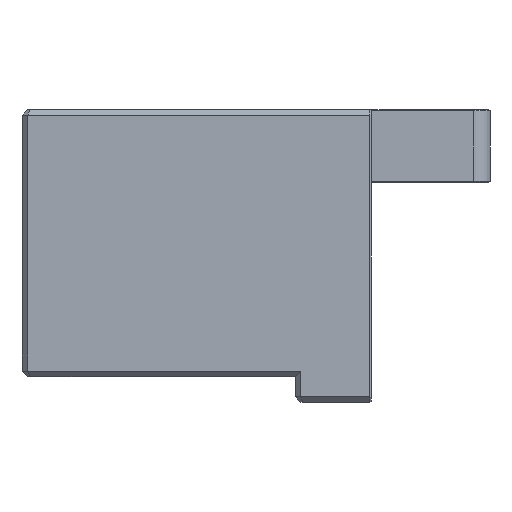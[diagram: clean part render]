
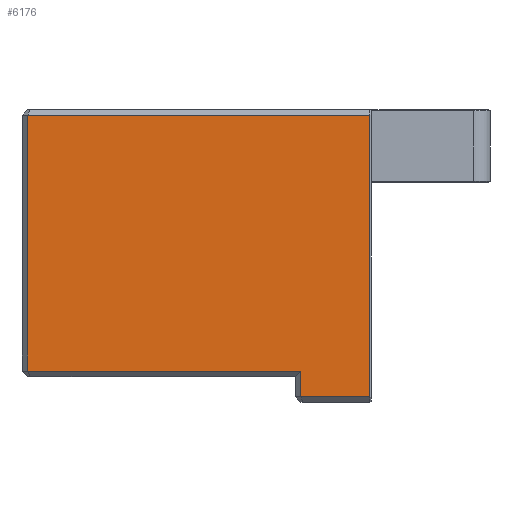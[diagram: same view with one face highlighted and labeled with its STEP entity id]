
A CAD part, left-side view. The second image highlights one B-rep face of the part: STEP entity #6176.
In plain terms, the highlighted planar face has unit normal (-1, 0, 0).
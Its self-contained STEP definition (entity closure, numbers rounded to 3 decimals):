
#166 = DIRECTION ( 'NONE',  ( 0., 0., 1. ) ) ;
#170 = CARTESIAN_POINT ( 'NONE',  ( -79.5, -18.6, -51.2 ) ) ;
#203 = PLANE ( 'NONE',  #5440 ) ;
#427 = VERTEX_POINT ( 'NONE', #4143 ) ;
#581 = VERTEX_POINT ( 'NONE', #7406 ) ;
#1138 = CARTESIAN_POINT ( 'NONE',  ( -79.5, 31.1, -1. ) ) ;
#1253 = VERTEX_POINT ( 'NONE', #4697 ) ;
#1882 = ORIENTED_EDGE ( 'NONE', *, *, #6267, .T. ) ;
#2169 = LINE ( 'NONE', #10731, #5213 ) ;
#2517 = VERTEX_POINT ( 'NONE', #10835 ) ;
#2903 = ORIENTED_EDGE ( 'NONE', *, *, #11736, .T. ) ;
#3466 = EDGE_LOOP ( 'NONE', ( #9501, #2903, #11125, #1882, #10305, #8572 ) ) ;
#4125 = VERTEX_POINT ( 'NONE', #8274 ) ;
#4143 = CARTESIAN_POINT ( 'NONE',  ( -79.5, 30.1, -1. ) ) ;
#4290 = EDGE_CURVE ( 'NONE', #2517, #12907, #12616, .T. ) ;
#4383 = VECTOR ( 'NONE', #5272, 1000. ) ;
#4697 = CARTESIAN_POINT ( 'NONE',  ( -79.5, -30.9, -1. ) ) ;
#4847 = VECTOR ( 'NONE', #5525, 1000. ) ;
#5213 = VECTOR ( 'NONE', #5584, 1000. ) ;
#5272 = DIRECTION ( 'NONE',  ( 0., 1., 0. ) ) ;
#5440 = AXIS2_PLACEMENT_3D ( 'NONE', #12385, #6357, #6318 ) ;
#5525 = DIRECTION ( 'NONE',  ( 0., -1., 0. ) ) ;
#5584 = DIRECTION ( 'NONE',  ( 0., 0., -1. ) ) ;
#5855 = EDGE_CURVE ( 'NONE', #581, #2517, #9395, .T. ) ;
#5994 = CARTESIAN_POINT ( 'NONE',  ( -79.5, -18.6, -46.6 ) ) ;
#6176 = ADVANCED_FACE ( 'NONE', ( #11609 ), #203, .T. ) ;
#6267 = EDGE_CURVE ( 'NONE', #427, #581, #2169, .T. ) ;
#6318 = DIRECTION ( 'NONE',  ( 0., -1., 0. ) ) ;
#6357 = DIRECTION ( 'NONE',  ( -1., 0., 0. ) ) ;
#7406 = CARTESIAN_POINT ( 'NONE',  ( -79.5, 30.1, -46.6 ) ) ;
#8274 = CARTESIAN_POINT ( 'NONE',  ( -79.5, -30.9, -51.2 ) ) ;
#8572 = ORIENTED_EDGE ( 'NONE', *, *, #4290, .T. ) ;
#9284 = EDGE_CURVE ( 'NONE', #1253, #427, #11754, .T. ) ;
#9395 = LINE ( 'NONE', #5994, #10826 ) ;
#9501 = ORIENTED_EDGE ( 'NONE', *, *, #12543, .T. ) ;
#10002 = DIRECTION ( 'NONE',  ( 0., 0., -1. ) ) ;
#10025 = DIRECTION ( 'NONE',  ( 0., -1., 0. ) ) ;
#10054 = VECTOR ( 'NONE', #10002, 1000. ) ;
#10086 = CARTESIAN_POINT ( 'NONE',  ( -79.5, -18.6, -52.2 ) ) ;
#10221 = CARTESIAN_POINT ( 'NONE',  ( -79.5, -30.9, -52.2 ) ) ;
#10305 = ORIENTED_EDGE ( 'NONE', *, *, #5855, .T. ) ;
#10542 = CARTESIAN_POINT ( 'NONE',  ( -79.5, -31.1, -51.2 ) ) ;
#10628 = LINE ( 'NONE', #10542, #4847 ) ;
#10731 = CARTESIAN_POINT ( 'NONE',  ( -79.5, 30.1, -52.2 ) ) ;
#10826 = VECTOR ( 'NONE', #10025, 1000. ) ;
#10835 = CARTESIAN_POINT ( 'NONE',  ( -79.5, -18.6, -46.6 ) ) ;
#11125 = ORIENTED_EDGE ( 'NONE', *, *, #9284, .T. ) ;
#11609 = FACE_OUTER_BOUND ( 'NONE', #3466, .T. ) ;
#11736 = EDGE_CURVE ( 'NONE', #4125, #1253, #13180, .T. ) ;
#11754 = LINE ( 'NONE', #1138, #4383 ) ;
#12385 = CARTESIAN_POINT ( 'NONE',  ( -79.5, 31.1, -52.2 ) ) ;
#12543 = EDGE_CURVE ( 'NONE', #12907, #4125, #10628, .T. ) ;
#12616 = LINE ( 'NONE', #10086, #10054 ) ;
#12907 = VERTEX_POINT ( 'NONE', #170 ) ;
#13033 = VECTOR ( 'NONE', #166, 1000. ) ;
#13180 = LINE ( 'NONE', #10221, #13033 ) ;
